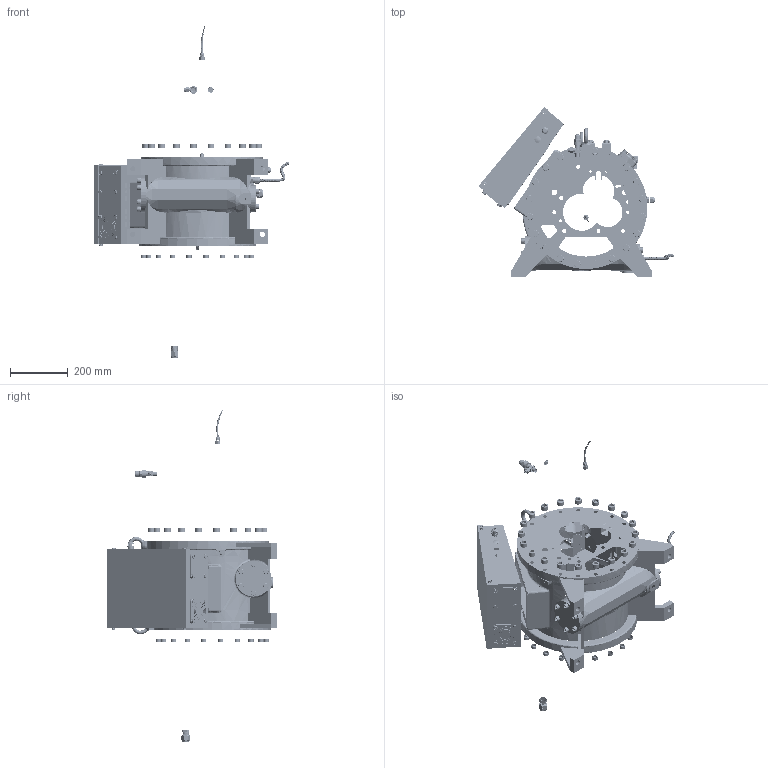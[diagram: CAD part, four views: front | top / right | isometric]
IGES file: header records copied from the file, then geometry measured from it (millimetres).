
Start section: SolidWorks IGES file using analytic representation for surfaces
Global section: file name: \\Datacenterrd1\@研發部\設計一課(冷媒)\(1)-文管中心\(2)-3D文管\(8)-Compressor 3Doutline(Surface)\RC2\RC2-BF\IGS\RC2-200BF outline.IGS; native system: SolidWorks 2013; preprocessor: SolidWorks 2013; author: hedylu; date: 141226.135320; units: centimetre
Bounding box: 678.95 x 591.44 x 1154.24 mm (x, y, z)
Surface area: 1545212.7 mm2 (no closed solid volume)
Topology: 0 solids, 0 shells, 2301 faces, 42561 edges, 42550 vertices
Faces by surface type: bspline 1517, revolution 784
